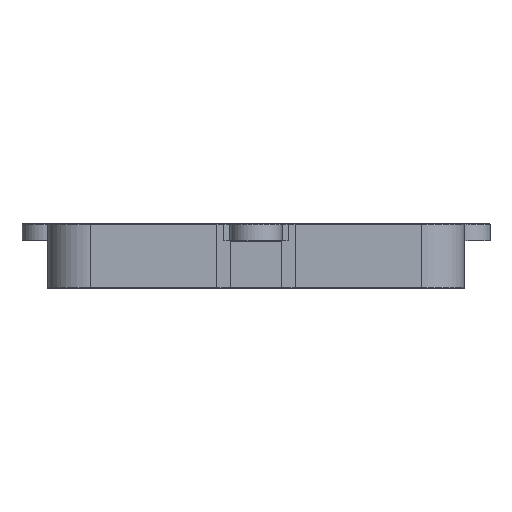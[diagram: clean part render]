
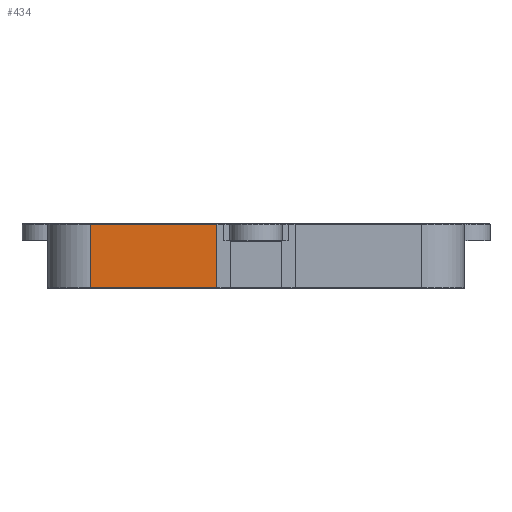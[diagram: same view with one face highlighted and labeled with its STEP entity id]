
A CAD part, front view. The second image highlights one B-rep face of the part: STEP entity #434.
In plain terms, the highlighted free-form (B-spline) face has degree [2, 1] with [3, 2] control points.
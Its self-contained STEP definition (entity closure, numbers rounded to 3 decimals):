
#434=ADVANCED_FACE('',(#1796),#21564,.T.);
#1796=FACE_OUTER_BOUND('',#3354,.T.);
#3354=EDGE_LOOP('',(#5413,#5414,#5415,#5416));
#5413=ORIENTED_EDGE('',*,*,#12114,.F.);
#5414=ORIENTED_EDGE('',*,*,#13273,.T.);
#5415=ORIENTED_EDGE('',*,*,#12115,.F.);
#5416=ORIENTED_EDGE('',*,*,#13275,.F.);
#12114=EDGE_CURVE('',#19557,#19555,#15710,.T.);
#12115=EDGE_CURVE('',#19556,#19558,#15711,.T.);
#13273=EDGE_CURVE('',#19557,#19558,#16825,.T.);
#13275=EDGE_CURVE('',#19555,#19556,#16827,.T.);
#15710=(
BOUNDED_CURVE()
B_SPLINE_CURVE(1,(#48961,#48962),.UNSPECIFIED.,.F.,.F.)
B_SPLINE_CURVE_WITH_KNOTS((2,2),(0.24,29.76),.UNSPECIFIED.)
CURVE()
GEOMETRIC_REPRESENTATION_ITEM()
RATIONAL_B_SPLINE_CURVE((1.,1.))
REPRESENTATION_ITEM('')
);
#15711=(
BOUNDED_CURVE()
B_SPLINE_CURVE(1,(#48963,#48964),.UNSPECIFIED.,.F.,.F.)
B_SPLINE_CURVE_WITH_KNOTS((2,2),(6.2,30.8),.UNSPECIFIED.)
CURVE()
GEOMETRIC_REPRESENTATION_ITEM()
RATIONAL_B_SPLINE_CURVE((1.,1.))
REPRESENTATION_ITEM('')
);
#16825=(
BOUNDED_CURVE()
B_SPLINE_CURVE(1,(#53793,#53794),.UNSPECIFIED.,.F.,.F.)
B_SPLINE_CURVE_WITH_KNOTS((2,2),(0.,49.),
 .UNSPECIFIED.)
CURVE()
GEOMETRIC_REPRESENTATION_ITEM()
RATIONAL_B_SPLINE_CURVE((1.,1.))
REPRESENTATION_ITEM('')
);
#16827=(
BOUNDED_CURVE()
B_SPLINE_CURVE(1,(#53798,#53799),.UNSPECIFIED.,.F.,.F.)
B_SPLINE_CURVE_WITH_KNOTS((2,2),(0.,49.),
 .UNSPECIFIED.)
CURVE()
GEOMETRIC_REPRESENTATION_ITEM()
RATIONAL_B_SPLINE_CURVE((1.,1.))
REPRESENTATION_ITEM('')
);
#19555=VERTEX_POINT('',#46833);
#19556=VERTEX_POINT('',#46834);
#19557=VERTEX_POINT('',#46835);
#19558=VERTEX_POINT('',#46836);
#21564=(
BOUNDED_SURFACE()
B_SPLINE_SURFACE(2,1,((#23122,#23123),(#23124,#23125),(#23126,#23127)),
 .UNSPECIFIED.,.F.,.F.,.F.)
B_SPLINE_SURFACE_WITH_KNOTS((3,3),(2,2),(2322.248,2476.248),
(0.,30.),.UNSPECIFIED.)
GEOMETRIC_REPRESENTATION_ITEM()
RATIONAL_B_SPLINE_SURFACE(((1.,1.),(1.,1.),(1.,1.)))
REPRESENTATION_ITEM('')
SURFACE()
);
#23122=CARTESIAN_POINT('',(-64.167,-80.833,8.595));
#23123=CARTESIAN_POINT('',(-64.167,-80.833,33.595));
#23124=CARTESIAN_POINT('',(0.,-80.833,8.595));
#23125=CARTESIAN_POINT('',(0.,-80.833,33.595));
#23126=CARTESIAN_POINT('',(64.167,-80.833,8.595));
#23127=CARTESIAN_POINT('',(64.167,-80.833,33.595));
#46833=CARTESIAN_POINT('',(-64.167,-80.833,33.395));
#46834=CARTESIAN_POINT('',(-15.167,-80.833,33.395));
#46835=CARTESIAN_POINT('',(-64.167,-80.833,8.795));
#46836=CARTESIAN_POINT('',(-15.167,-80.833,8.795));
#48961=CARTESIAN_POINT('',(-64.167,-80.833,8.795));
#48962=CARTESIAN_POINT('',(-64.167,-80.833,33.395));
#48963=CARTESIAN_POINT('',(-15.167,-80.833,33.395));
#48964=CARTESIAN_POINT('',(-15.167,-80.833,8.795));
#53793=CARTESIAN_POINT('',(-64.167,-80.833,8.795));
#53794=CARTESIAN_POINT('',(-15.167,-80.833,8.795));
#53798=CARTESIAN_POINT('',(-64.167,-80.833,33.395));
#53799=CARTESIAN_POINT('',(-15.167,-80.833,33.395));
